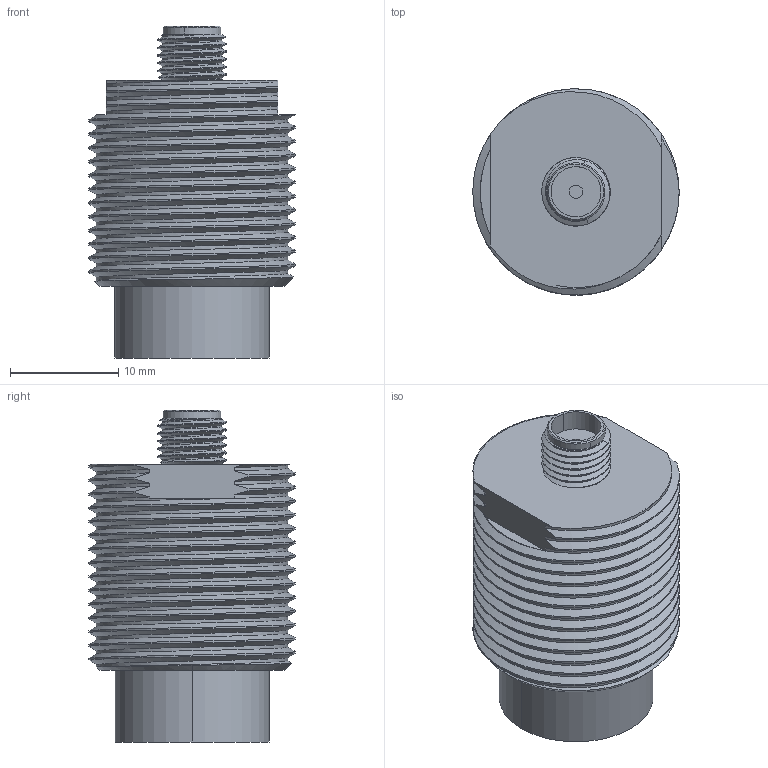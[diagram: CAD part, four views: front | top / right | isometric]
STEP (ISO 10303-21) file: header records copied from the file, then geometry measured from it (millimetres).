
FILE_DESCRIPTION (( 'STEP AP203' ), '1' );
FILE_NAME ('6U1.STEP', '2010-03-05T18:54:07', ( 'tom edwards' ), ( 'Tom J. Edwards' ), 'SwSTEP 2.0', 'SolidWorks 2008', '' );
FILE_SCHEMA (( 'CONFIG_CONTROL_DESIGN' ));
Length unit declared in the file: millimetre
Products named in the file (3): 6U1_Thread Runout; 6U1; 2S1_sma
Assembly tree (2 placements, depth 2):
  6U1
    2S1_sma
    6U1_Thread Runout
Bounding box: 19.05 x 19.04 x 30.65 mm (x, y, z)
Volume: 6177.8 mm3; surface area: 2864.5 mm2
Topology: 2 solids, 2 shells, 275 faces, 659 edges, 394 vertices
Faces by surface type: cylinder 106, plane 76, cone 73, bspline 20
Entity records: 22395 total; most frequent: CARTESIAN_POINT 16448, ORIENTED_EDGE 1318, DIRECTION 1050, EDGE_CURVE 659, AXIS2_PLACEMENT_3D 432, VERTEX_POINT 394, EDGE_LOOP 281, ADVANCED_FACE 275
